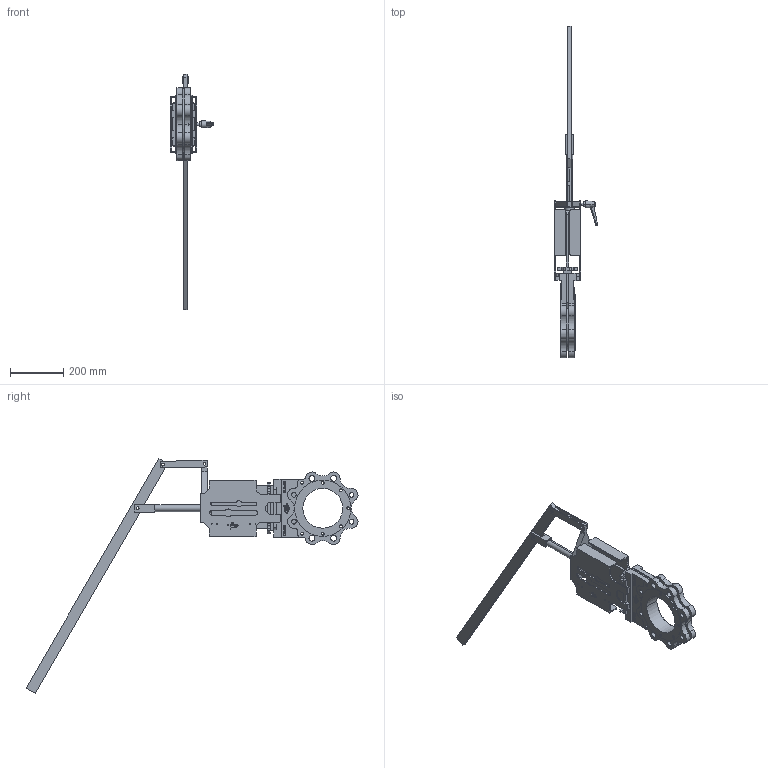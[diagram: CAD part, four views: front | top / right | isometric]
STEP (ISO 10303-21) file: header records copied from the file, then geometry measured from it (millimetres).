
FILE_DESCRIPTION (( 'STEP AP203' ), '1' );
FILE_NAME ('XDP-PRE DN150.STEP', '2017-05-24T11:22:58', ( '' ), ( '' ), 'SwSTEP 2.0', 'SolidWorks 2016', '' );
FILE_SCHEMA (( 'CONFIG_CONTROL_DESIGN' ));
Length unit declared in the file: millimetre
Products named in the file (1): XDP-PRE DN150
Bounding box: 163.5 x 1250.76 x 885.92 mm (x, y, z)
Volume: 4609302.1 mm3; surface area: 784827.4 mm2
Topology: 1 solids, 1 shells, 949 faces, 2652 edges, 1756 vertices
Faces by surface type: plane 480, cylinder 316, bspline 144, cone 9
Entity records: 39725 total; most frequent: CARTESIAN_POINT 15441, ORIENTED_EDGE 5304, DIRECTION 4625, EDGE_CURVE 2652, VERTEX_POINT 1756, VECTOR 1701, LINE 1701, AXIS2_PLACEMENT_3D 1462
